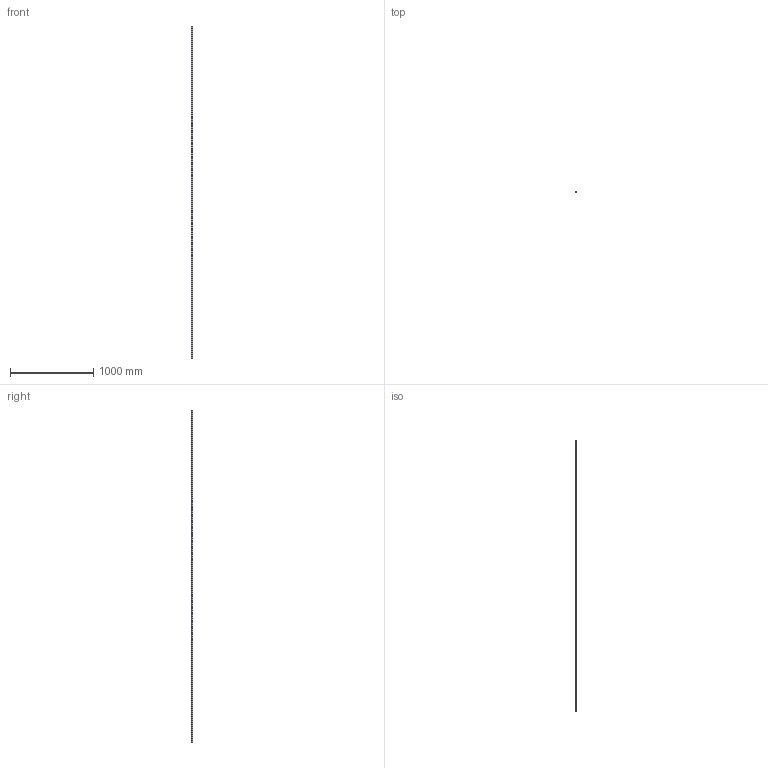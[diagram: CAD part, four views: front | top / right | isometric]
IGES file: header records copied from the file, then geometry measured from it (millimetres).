
Start section: SolidWorks IGES file using analytic representation for surfaces
Global section: file name: C:\Users\IanO\Desktop\L1016_v2\L1016.BL15_v2\L1016.BL15_v2_20190611_IGES\L1016.BL15-4000.igs; native system: SolidWorks 2017; preprocessor: SolidWorks 2017; author: IanO; date: 190612.123848; units: millimetre
Bounding box: 15 x 13 x 4000 mm (x, y, z)
Surface area: 244149.1 mm2 (no closed solid volume)
Topology: 0 solids, 0 shells, 361 faces, 9800 edges, 9800 vertices
Faces by surface type: revolution 272, bspline 89
